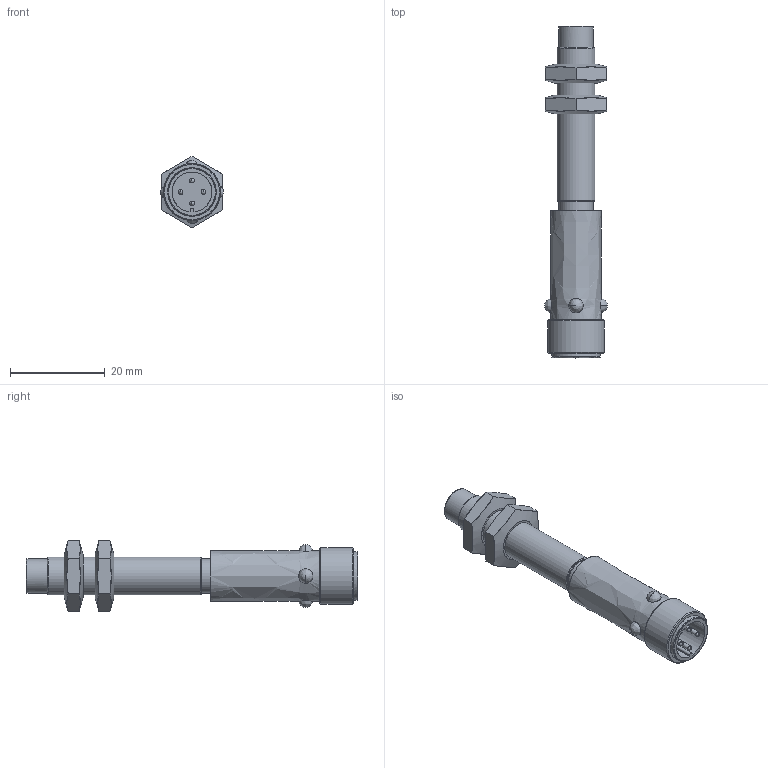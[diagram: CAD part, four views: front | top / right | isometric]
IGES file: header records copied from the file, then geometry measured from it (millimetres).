
Global section: file name: H:\lem\3DCAD_IS_108_MM_2Nx_4N0_M12.igs; native system: NX V11.0; preprocessor: SIEMENS PLM Software NX 11.0; date: 20190912.114657; units: millimetre
Bounding box: 13.27 x 69.9 x 15.01 mm (x, y, z)
Surface area: 3438.8 mm2 (no closed solid volume)
Topology: 0 solids, 0 shells, 58 faces, 551 edges, 532 vertices
Faces by surface type: bspline 58
